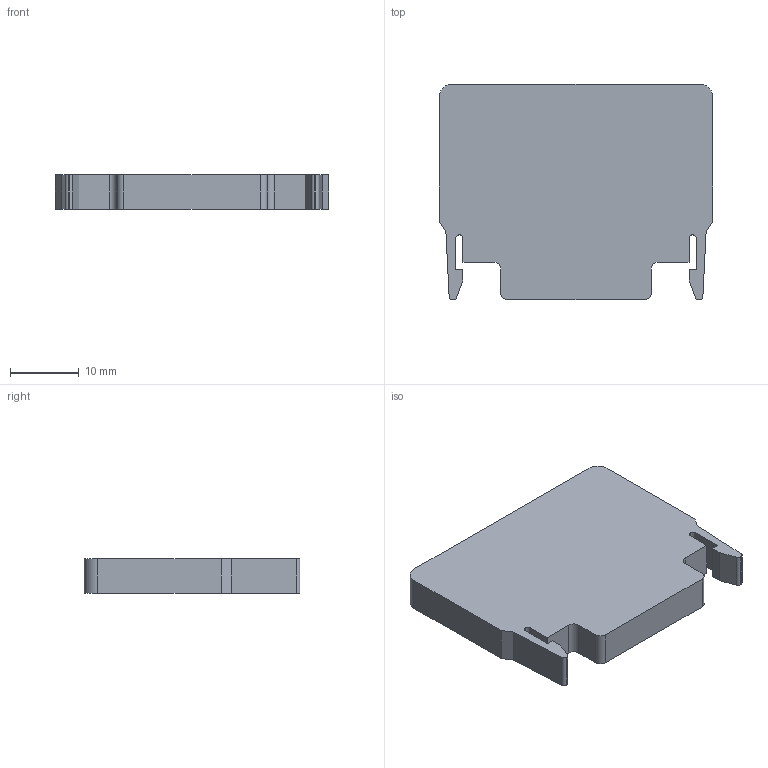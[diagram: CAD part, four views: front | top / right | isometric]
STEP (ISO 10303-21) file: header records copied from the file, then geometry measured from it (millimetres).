
FILE_DESCRIPTION(/* description */ (''),/* implementation_level */ '2;1');
FILE_NAME(/* name */ 'C:\Users\USERCADG105.FUJIDK\Desktop\TXE-5.5S Eﾌﾟﾚｰﾄ.stp',/* time_stamp */ '2024-11-29T14:52:04+09:00',/* author */ ('usercadg105'),/* organization */ (''),/* preprocessor_version */ 'ST-DEVELOPER v19',/* originating_system */ 'Autodesk Inventor 2023',/* authorisation */ '');
FILE_SCHEMA (('CONFIG_CONTROL_DESIGN'));
Length unit declared in the file: millimetre
Products named in the file (1): TXE-5.5S Eﾌﾟﾚｰﾄ
Bounding box: 40 x 31.5 x 5 mm (x, y, z)
Volume: 5788 mm3; surface area: 3196.4 mm2
Topology: 1 solids, 1 shells, 42 faces, 120 edges, 80 vertices
Faces by surface type: plane 28, cylinder 14
Entity records: 1415 total; most frequent: CARTESIAN_POINT 243, ORIENTED_EDGE 240, DIRECTION 234, EDGE_CURVE 120, LINE 92, VECTOR 92, VERTEX_POINT 80, AXIS2_PLACEMENT_3D 71
